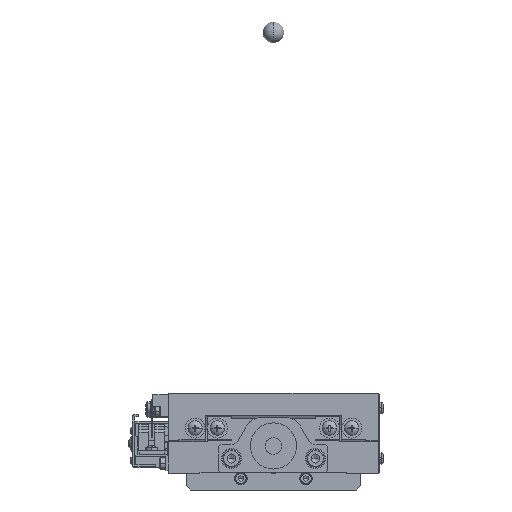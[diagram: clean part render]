
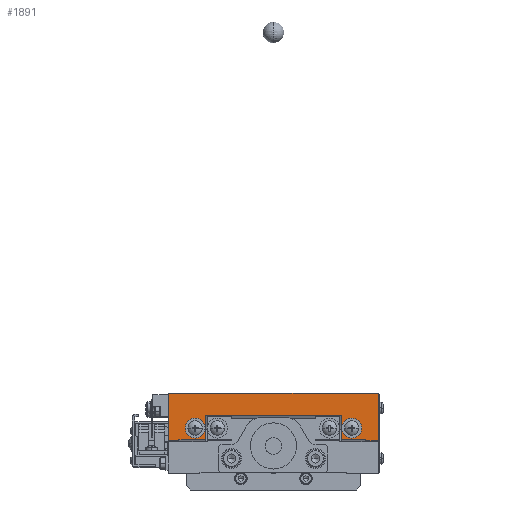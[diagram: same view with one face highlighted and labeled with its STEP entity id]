
A CAD part, left-side view. The second image highlights one B-rep face of the part: STEP entity #1891.
In plain terms, the highlighted planar face has unit normal (-1, 0, 0).
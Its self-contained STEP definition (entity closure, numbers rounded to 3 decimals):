
#1891=ADVANCED_FACE('',(#20379,#20380,#20381),#20378,.T.);
#20378=PLANE('',#39686);
#20379=FACE_OUTER_BOUND('',#39687,.T.);
#20380=FACE_BOUND('',#39688,.T.);
#20381=FACE_BOUND('',#39689,.T.);
#39683=CARTESIAN_POINT('',(-50.,-60.,40.248));
#39684=DIRECTION('',(-1.,0.,0.));
#39685=DIRECTION('',(0.,1.,0.));
#39686=AXIS2_PLACEMENT_3D('',#39683,#39684,#39685);
#39687=EDGE_LOOP('',(#53767,#53768,#53769,#53770,#53771,#53772,#53773,#53774,#53775,#53776,#53777,#53778));
#39688=EDGE_LOOP('',(#53779,#53780));
#39689=EDGE_LOOP('',(#53781,#53782));
#53767=ORIENTED_EDGE('',*,*,#62528,.F.);
#53768=ORIENTED_EDGE('',*,*,#62509,.F.);
#53769=ORIENTED_EDGE('',*,*,#62526,.T.);
#53770=ORIENTED_EDGE('',*,*,#62585,.F.);
#53771=ORIENTED_EDGE('',*,*,#62523,.T.);
#53772=ORIENTED_EDGE('',*,*,#62521,.F.);
#53773=ORIENTED_EDGE('',*,*,#62518,.F.);
#53774=ORIENTED_EDGE('',*,*,#62586,.F.);
#53775=ORIENTED_EDGE('',*,*,#62505,.F.);
#53776=ORIENTED_EDGE('',*,*,#62514,.F.);
#53777=ORIENTED_EDGE('',*,*,#62587,.T.);
#53778=ORIENTED_EDGE('',*,*,#62551,.T.);
#53779=ORIENTED_EDGE('',*,*,#62588,.T.);
#53780=ORIENTED_EDGE('',*,*,#62589,.T.);
#53781=ORIENTED_EDGE('',*,*,#62590,.T.);
#53782=ORIENTED_EDGE('',*,*,#62591,.T.);
#62505=EDGE_CURVE('',#93271,#93257,#93278,.T.);
#62509=EDGE_CURVE('',#93299,#93285,#93306,.T.);
#62514=EDGE_CURVE('',#93333,#93271,#93340,.T.);
#62518=EDGE_CURVE('',#93361,#93347,#93368,.T.);
#62521=EDGE_CURVE('',#93347,#93375,#93388,.T.);
#62523=EDGE_CURVE('',#93401,#93375,#93402,.T.);
#62526=EDGE_CURVE('',#93299,#93414,#93422,.T.);
#62528=EDGE_CURVE('',#93285,#93434,#93435,.T.);
#62551=EDGE_CURVE('',#93591,#93434,#93592,.T.);
#62585=EDGE_CURVE('',#93401,#93414,#93828,.T.);
#62586=EDGE_CURVE('',#93257,#93361,#93834,.T.);
#62587=EDGE_CURVE('',#93333,#93591,#93840,.T.);
#62588=EDGE_CURVE('',#93846,#93847,#93848,.T.);
#62589=EDGE_CURVE('',#93847,#93846,#93854,.T.);
#62590=EDGE_CURVE('',#93860,#93861,#93862,.T.);
#62591=EDGE_CURVE('',#93861,#93860,#93868,.T.);
#93257=VERTEX_POINT('',#126043);
#93271=VERTEX_POINT('',#126052);
#93278=LINE('',#126057,#126058);
#93285=VERTEX_POINT('',#126061);
#93299=VERTEX_POINT('',#126070);
#93306=LINE('',#126075,#126076);
#93333=VERTEX_POINT('',#126092);
#93340=LINE('',#126097,#126098);
#93347=VERTEX_POINT('',#126101);
#93361=VERTEX_POINT('',#126110);
#93368=LINE('',#126115,#126116);
#93375=VERTEX_POINT('',#126119);
#93388=LINE('',#126127,#126128);
#93401=VERTEX_POINT('',#126134);
#93402=LINE('',#126135,#126136);
#93414=VERTEX_POINT('',#126142);
#93422=LINE('',#126148,#126149);
#93434=VERTEX_POINT('',#126154);
#93435=LINE('',#126155,#126156);
#93591=VERTEX_POINT('',#126250);
#93592=LINE('',#126251,#126252);
#93828=LINE('',#126417,#126418);
#93834=LINE('',#126420,#126421);
#93840=LINE('',#126423,#126424);
#93846=VERTEX_POINT('',#126426);
#93847=VERTEX_POINT('',#126427);
#93848=CIRCLE('',#126431,4.75);
#93854=CIRCLE('',#126435,4.75);
#93860=VERTEX_POINT('',#126436);
#93861=VERTEX_POINT('',#126437);
#93862=CIRCLE('',#126441,4.75);
#93868=CIRCLE('',#126445,4.75);
#126043=CARTESIAN_POINT('',(-50.,-44.,15.834));
#126052=CARTESIAN_POINT('',(-50.,-44.,15.525));
#126057=CARTESIAN_POINT('',(-50.,-44.,15.525));
#126058=VECTOR('',#126059,0.31);
#126059=DIRECTION('',(0.,0.,1.));
#126061=CARTESIAN_POINT('',(-50.,50.,15.525));
#126070=CARTESIAN_POINT('',(-50.,45.,15.525));
#126075=CARTESIAN_POINT('',(-50.,45.,15.525));
#126076=VECTOR('',#126077,5.);
#126077=DIRECTION('',(0.,1.,0.));
#126092=CARTESIAN_POINT('',(-50.,-50.,15.525));
#126097=CARTESIAN_POINT('',(-50.,-50.,15.525));
#126098=VECTOR('',#126099,6.);
#126099=DIRECTION('',(0.,1.,0.));
#126101=CARTESIAN_POINT('',(-50.,-32.5,27.734));
#126110=CARTESIAN_POINT('',(-50.,-32.5,15.834));
#126115=CARTESIAN_POINT('',(-50.,-32.5,15.834));
#126116=VECTOR('',#126117,11.899);
#126117=DIRECTION('',(0.,0.,1.));
#126119=CARTESIAN_POINT('',(-50.,32.5,27.734));
#126127=CARTESIAN_POINT('',(-50.,-32.5,27.734));
#126128=VECTOR('',#126129,65.);
#126129=DIRECTION('',(0.,1.,0.));
#126134=CARTESIAN_POINT('',(-50.,32.5,15.834));
#126135=CARTESIAN_POINT('',(-50.,32.5,15.834));
#126136=VECTOR('',#126137,11.899);
#126137=DIRECTION('',(0.,0.,1.));
#126142=CARTESIAN_POINT('',(-50.,45.,15.834));
#126148=CARTESIAN_POINT('',(-50.,45.,15.525));
#126149=VECTOR('',#126150,0.31);
#126150=DIRECTION('',(0.,0.,1.));
#126154=CARTESIAN_POINT('',(-50.,50.,38.));
#126155=CARTESIAN_POINT('',(-50.,50.,15.525));
#126156=VECTOR('',#126157,22.475);
#126157=DIRECTION('',(0.,0.,1.));
#126250=CARTESIAN_POINT('',(-50.,-50.,38.));
#126251=CARTESIAN_POINT('',(-50.,-50.,38.));
#126252=VECTOR('',#126253,100.);
#126253=DIRECTION('',(0.,1.,0.));
#126417=CARTESIAN_POINT('',(-50.,32.5,15.834));
#126418=VECTOR('',#126419,12.5);
#126419=DIRECTION('',(0.,1.,0.));
#126420=CARTESIAN_POINT('',(-50.,-44.,15.834));
#126421=VECTOR('',#126422,11.5);
#126422=DIRECTION('',(0.,1.,0.));
#126423=CARTESIAN_POINT('',(-50.,-50.,15.525));
#126424=VECTOR('',#126425,22.475);
#126425=DIRECTION('',(0.,0.,1.));
#126426=CARTESIAN_POINT('',(-50.,32.55,21.519));
#126427=CARTESIAN_POINT('',(-50.,42.05,21.519));
#126428=CARTESIAN_POINT('',(-50.,37.3,21.519));
#126429=DIRECTION('',(1.,0.,0.));
#126430=DIRECTION('',(0.,-1.,0.));
#126431=AXIS2_PLACEMENT_3D('',#126428,#126429,#126430);
#126432=CARTESIAN_POINT('',(-50.,37.3,21.519));
#126433=DIRECTION('',(1.,0.,0.));
#126434=DIRECTION('',(0.,-1.,0.));
#126435=AXIS2_PLACEMENT_3D('',#126432,#126433,#126434);
#126436=CARTESIAN_POINT('',(-50.,-42.05,21.519));
#126437=CARTESIAN_POINT('',(-50.,-32.55,21.519));
#126438=CARTESIAN_POINT('',(-50.,-37.3,21.519));
#126439=DIRECTION('',(1.,0.,0.));
#126440=DIRECTION('',(0.,-1.,0.));
#126441=AXIS2_PLACEMENT_3D('',#126438,#126439,#126440);
#126442=CARTESIAN_POINT('',(-50.,-37.3,21.519));
#126443=DIRECTION('',(1.,0.,0.));
#126444=DIRECTION('',(0.,-1.,0.));
#126445=AXIS2_PLACEMENT_3D('',#126442,#126443,#126444);
